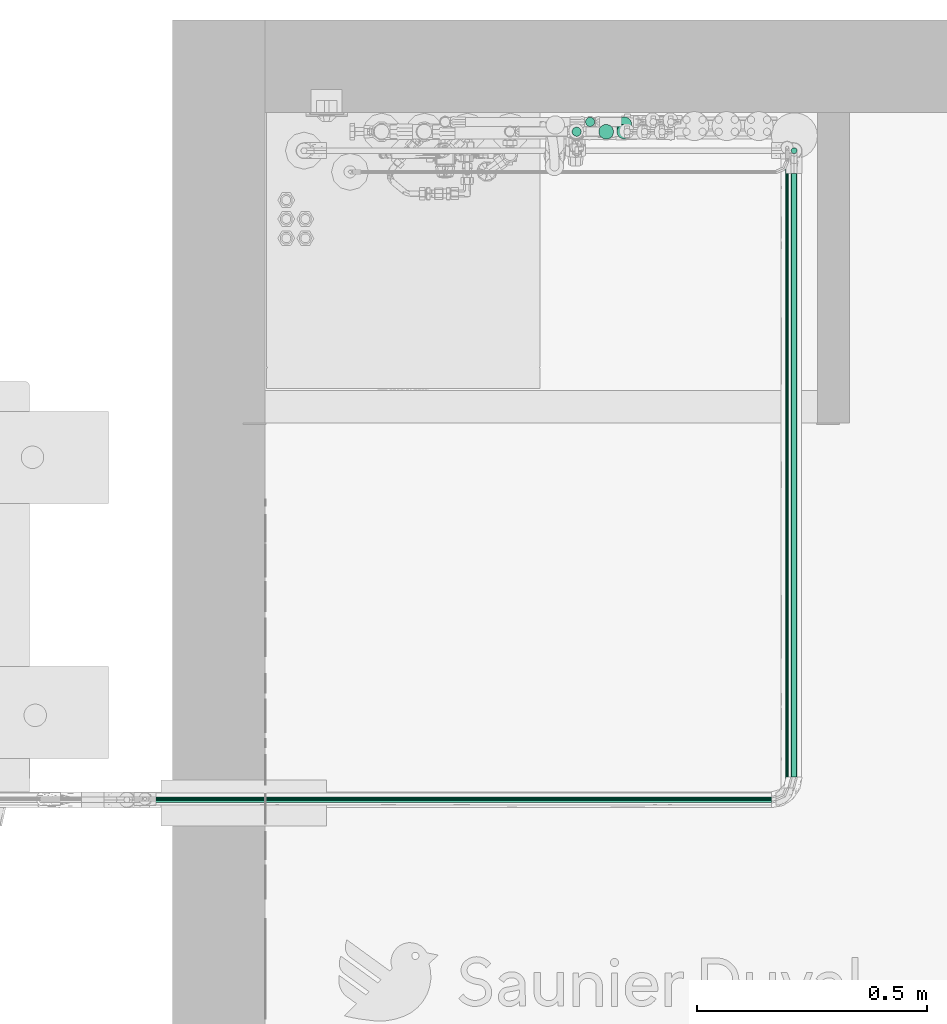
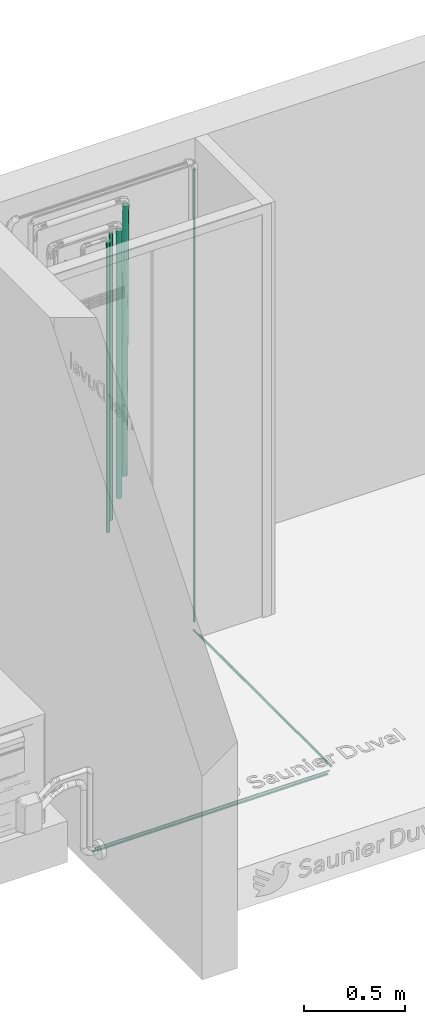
# One storey, part 16 of 32: 9 flow segments.
"""IFC2X3 building model written with IfcOpenShell, lengths in metres."""

from ifc_helpers import new_model, entity, si_unit, converted_unit, derived_unit, direction, frame, frame_2d, origin, origin_2d_with_axis, place, context, subcontext, project, spatial, circle, extrude, type_object, element, save


model = new_model("IFC2X3")

# Units and contexts
model_context = context("Model", 3, precision=1e-05, world=origin(), true_north=direction((6.123031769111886e-17, 1.0)))
body_context = subcontext(model_context, "Body", "Model", "MODEL_VIEW")
ifc_project = project(units=[si_unit("LENGTHUNIT", "METRE"), si_unit("AREAUNIT", "SQUARE_METRE"), si_unit("VOLUMEUNIT", "CUBIC_METRE"), converted_unit("PLANEANGLEUNIT", "DEGREE", entity("IfcPlaneAngleMeasure", 0.017453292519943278), si_unit("PLANEANGLEUNIT", "RADIAN"), dimensions=[0, 0, 0, 0, 0, 0, 0]), si_unit("MASSUNIT", "GRAM", prefix="KILO"), derived_unit("MASSDENSITYUNIT", [(si_unit("MASSUNIT", "GRAM", prefix="KILO"), 1), (si_unit("LENGTHUNIT", "METRE"), -3)]), derived_unit("IONCONCENTRATIONUNIT", [(si_unit("MASSUNIT", "GRAM", prefix="KILO"), 1), (si_unit("LENGTHUNIT", "METRE"), -3)]), derived_unit("MOMENTOFINERTIAUNIT", [(si_unit("LENGTHUNIT", "METRE"), 4)]), si_unit("TIMEUNIT", "SECOND"), si_unit("FREQUENCYUNIT", "HERTZ"), si_unit("THERMODYNAMICTEMPERATUREUNIT", "DEGREE_CELSIUS"), derived_unit("THERMALTRANSMITTANCEUNIT", [(si_unit("MASSUNIT", "GRAM", prefix="KILO"), 1), (si_unit("THERMODYNAMICTEMPERATUREUNIT", "KELVIN"), -1), (si_unit("TIMEUNIT", "SECOND"), -3)]), derived_unit("THERMALCONDUCTANCEUNIT", [(si_unit("MASSUNIT", "GRAM", prefix="KILO"), 1), (si_unit("THERMODYNAMICTEMPERATUREUNIT", "KELVIN"), -1), (si_unit("TIMEUNIT", "SECOND"), -3), (si_unit("LENGTHUNIT", "METRE"), 1)]), derived_unit("VOLUMETRICFLOWRATEUNIT", [(si_unit("LENGTHUNIT", "METRE", prefix="DECI"), 3), (si_unit("TIMEUNIT", "SECOND"), -1)]), derived_unit("MASSFLOWRATEUNIT", [(si_unit("MASSUNIT", "GRAM", prefix="KILO"), 1), (si_unit("TIMEUNIT", "SECOND"), -1)]), derived_unit("ROTATIONALFREQUENCYUNIT", [(si_unit("TIMEUNIT", "SECOND"), -1)]), si_unit("ELECTRICCURRENTUNIT", "AMPERE"), si_unit("ELECTRICVOLTAGEUNIT", "VOLT"), si_unit("POWERUNIT", "WATT"), si_unit("FORCEUNIT", "NEWTON", prefix="KILO"), si_unit("ILLUMINANCEUNIT", "LUX"), si_unit("LUMINOUSFLUXUNIT", "LUMEN"), si_unit("LUMINOUSINTENSITYUNIT", "CANDELA"), si_unit("ENERGYUNIT", "JOULE"), derived_unit("USERDEFINED", [(si_unit("MASSUNIT", "GRAM", prefix="KILO"), -1), (si_unit("LENGTHUNIT", "METRE"), -2), (si_unit("TIMEUNIT", "SECOND"), 3), (si_unit("LUMINOUSFLUXUNIT", "LUMEN"), 1)]), derived_unit("USERDEFINED", [(si_unit("MASSUNIT", "GRAM", prefix="KILO"), 1), (si_unit("TIMEUNIT", "SECOND"), -3), (si_unit("LENGTHUNIT", "METRE"), 3), (si_unit("ELECTRICCURRENTUNIT", "AMPERE"), -2)]), derived_unit("SOUNDPOWERUNIT", [(si_unit("MASSUNIT", "GRAM", prefix="KILO"), 1), (si_unit("TIMEUNIT", "SECOND"), -3), (si_unit("LENGTHUNIT", "METRE"), 2)]), derived_unit("SOUNDPRESSUREUNIT", [(si_unit("MASSUNIT", "GRAM", prefix="KILO"), 1), (si_unit("LENGTHUNIT", "METRE"), -1), (si_unit("TIMEUNIT", "SECOND"), -2)]), derived_unit("LINEARVELOCITYUNIT", [(si_unit("LENGTHUNIT", "METRE"), 1), (si_unit("TIMEUNIT", "SECOND"), -1)]), si_unit("PRESSUREUNIT", "PASCAL"), derived_unit("USERDEFINED", [(si_unit("MASSUNIT", "GRAM", prefix="KILO"), 1), (si_unit("LENGTHUNIT", "METRE"), -2), (si_unit("TIMEUNIT", "SECOND"), -2)]), derived_unit("LINEARFORCEUNIT", [(si_unit("MASSUNIT", "GRAM", prefix="KILO"), 1), (si_unit("TIMEUNIT", "SECOND"), -2)]), derived_unit("PLANARFORCEUNIT", [(si_unit("MASSUNIT", "GRAM", prefix="KILO"), 1), (si_unit("LENGTHUNIT", "METRE"), -1), (si_unit("TIMEUNIT", "SECOND"), -2)]), derived_unit("SPECIFICHEATCAPACITYUNIT", [(si_unit("THERMODYNAMICTEMPERATUREUNIT", "KELVIN"), -1), (si_unit("LENGTHUNIT", "METRE"), 2), (si_unit("TIMEUNIT", "SECOND"), -2)]), derived_unit("HEATFLUXDENSITYUNIT", [(si_unit("MASSUNIT", "GRAM", prefix="KILO"), 1), (si_unit("TIMEUNIT", "SECOND"), -3)]), derived_unit("HEATINGVALUEUNIT", [(si_unit("LENGTHUNIT", "METRE"), 2), (si_unit("TIMEUNIT", "SECOND"), -2)]), derived_unit("VAPORPERMEABILITYUNIT", [(si_unit("LENGTHUNIT", "METRE"), -1), (si_unit("TIMEUNIT", "SECOND"), 1)]), derived_unit("DYNAMICVISCOSITYUNIT", [(si_unit("MASSUNIT", "GRAM", prefix="KILO"), 1), (si_unit("TIMEUNIT", "SECOND"), -1), (si_unit("LENGTHUNIT", "METRE"), -1)]), derived_unit("THERMALEXPANSIONCOEFFICIENTUNIT", [(si_unit("THERMODYNAMICTEMPERATUREUNIT", "KELVIN"), -1)]), derived_unit("MODULUSOFELASTICITYUNIT", [(si_unit("MASSUNIT", "GRAM", prefix="KILO"), 1), (si_unit("LENGTHUNIT", "METRE"), -1), (si_unit("TIMEUNIT", "SECOND"), -2)]), derived_unit("ISOTHERMALMOISTURECAPACITYUNIT", [(si_unit("MASSUNIT", "GRAM", prefix="KILO"), -1), (si_unit("LENGTHUNIT", "METRE"), 3)]), derived_unit("MOISTUREDIFFUSIVITYUNIT", [(si_unit("TIMEUNIT", "SECOND"), -1), (si_unit("LENGTHUNIT", "METRE"), 2)]), derived_unit("MASSPERLENGTHUNIT", [(si_unit("MASSUNIT", "GRAM", prefix="KILO"), 1), (si_unit("LENGTHUNIT", "METRE"), -1)]), derived_unit("THERMALRESISTANCEUNIT", [(si_unit("MASSUNIT", "GRAM", prefix="KILO"), -1), (si_unit("TIMEUNIT", "SECOND"), 3), (si_unit("THERMODYNAMICTEMPERATUREUNIT", "KELVIN"), 1)]), derived_unit("ACCELERATIONUNIT", [(si_unit("LENGTHUNIT", "METRE"), 1), (si_unit("TIMEUNIT", "SECOND"), -2)]), derived_unit("ANGULARVELOCITYUNIT", [(si_unit("TIMEUNIT", "SECOND"), -1), (si_unit("PLANEANGLEUNIT", "RADIAN"), 1)]), derived_unit("LINEARSTIFFNESSUNIT", [(si_unit("MASSUNIT", "GRAM", prefix="KILO"), 1), (si_unit("TIMEUNIT", "SECOND"), -2)]), derived_unit("WARPINGCONSTANTUNIT", [(si_unit("LENGTHUNIT", "METRE"), 6)]), derived_unit("LINEARMOMENTUNIT", [(si_unit("MASSUNIT", "GRAM", prefix="KILO"), 1), (si_unit("LENGTHUNIT", "METRE"), 1), (si_unit("TIMEUNIT", "SECOND"), -2)]), derived_unit("TORQUEUNIT", [(si_unit("MASSUNIT", "GRAM", prefix="KILO"), 1), (si_unit("LENGTHUNIT", "METRE"), 2), (si_unit("TIMEUNIT", "SECOND"), -2)])], contexts=[model_context])

# Site, building, storey
site_placement = place(None, origin())
site = spatial("IfcSite", under=ifc_project, at=site_placement, Name="Default", CompositionType="ELEMENT")
building_placement = place(site_placement, origin())
building = spatial("IfcBuilding", under=site, at=building_placement, CompositionType="ELEMENT")
storey_placement = place(building_placement, origin())
storey = spatial("IfcBuildingStorey", under=building, at=storey_placement, Name="Niveau 0", CompositionType="ELEMENT", Elevation=-1.949160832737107e-14)

# Flow segments
pipe_segment_type_1 = type_object("IfcPipeSegmentType", Name="Canalisation:Cuivre Frigo", PredefinedType="NOTDEFINED")
flow_segment_1_placement = place(storey_placement, origin())
element("IfcFlowSegment", 1, at=flow_segment_1_placement, inside=storey, type_object=pipe_segment_type_1, Name="Canalisation:Cuivre Frigo", ObjectType="Canalisation:Cuivre Frigo", context=body_context, shape_type="SweptSolid", body=[
    extrude(circle(Radius=0.00635, at=origin_2d_with_axis()), frame((-13.560301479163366, 2.7855264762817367, -0.3656999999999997)), (0.0, 0.0, 1.0), 2.750837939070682),
])
flow_segment_2_placement = place(storey_placement, origin())
element("IfcFlowSegment", 2, at=flow_segment_2_placement, inside=storey, type_object=pipe_segment_type_1, Name="Canalisation:Cuivre Frigo", ObjectType="Canalisation:Cuivre Frigo", context=body_context, shape_type="SweptSolid", body=[
    extrude(circle(Radius=0.0032, at=origin_2d_with_axis()), frame((-13.575301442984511, 1.4011530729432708, -0.39999999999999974), z_axis=(0.0, 1.0, 0.0), x_axis=(-1.0, 0.0, 0.0)), (0.0, 0.0, 1.0), 1.3667734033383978),
])
flow_segment_3_placement = place(storey_placement, origin())
element("IfcFlowSegment", 3, at=flow_segment_3_placement, inside=storey, type_object=pipe_segment_type_1, Name="Canalisation:Cuivre Frigo", ObjectType="Canalisation:Cuivre Frigo", context=body_context, shape_type="SweptSolid", body=[
    extrude(circle(Radius=0.0032, at=frame_2d((-2.97788460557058e-15, 2.3010926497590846e-15), x_axis=(1.0, 0.0))), frame((-14.946820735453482, 1.3770530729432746, -0.3999999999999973), z_axis=(1.0, 0.0, 0.0), x_axis=(0.0, 1.0, 0.0)), (0.0, 0.0, 1.0), 1.3474192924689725),
])
flow_segment_4_placement = place(storey_placement, origin())
element("IfcFlowSegment", 4, at=flow_segment_4_placement, inside=storey, type_object=pipe_segment_type_1, Name="Canalisation:Cuivre Frigo", ObjectType="Canalisation:Cuivre Frigo", context=body_context, shape_type="SweptSolid", body=[
    extrude(circle(Radius=0.00635, at=frame_2d((2.1657342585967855e-15, -6.767919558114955e-17), x_axis=(1.0, 0.0))), frame((-13.560301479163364, 1.4243530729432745, -0.41499999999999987), z_axis=(0.0, 1.0, 0.0), x_axis=(-1.0, 0.0, 0.0)), (0.0, 0.0, 1.0), 1.3118734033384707),
])
flow_segment_5_placement = place(storey_placement, origin())
element("IfcFlowSegment", 5, at=flow_segment_5_placement, inside=storey, type_object=pipe_segment_type_1, Name="Canalisation:Cuivre Frigo", ObjectType="Canalisation:Cuivre Frigo", context=body_context, shape_type="SweptSolid", body=[
    extrude(circle(Radius=0.00635, at=origin_2d_with_axis()), frame((-14.961048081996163, 1.3750530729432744, -0.4149999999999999), z_axis=(1.0, 0.0, 0.0), x_axis=(0.0, -1.0, 0.0)), (0.0, 0.0, 1.0), 1.3514466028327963),
])
pipe_segment_type_2 = type_object("IfcPipeSegmentType", Name="Canalisation:COMAP MULTISKIN - SKINPRESS PPSU", PredefinedType="NOTDEFINED")
flow_segment_6_placement = place(storey_placement, origin())
element("IfcFlowSegment", 6, at=flow_segment_6_placement, inside=storey, type_object=pipe_segment_type_2, Name="Canalisation:COMAP MULTISKIN - SKINPRESS PPSU", ObjectType="Canalisation:COMAP MULTISKIN - SKINPRESS PPSU", context=body_context, shape_type="SweptSolid", body=[
    extrude(circle(Radius=0.01, at=origin_2d_with_axis()), frame((-14.032760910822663, 2.826796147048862, 0.3199999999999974)), (0.0, 0.0, 1.0), 1.7599999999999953),
])
flow_segment_7_placement = place(storey_placement, origin())
element("IfcFlowSegment", 7, at=flow_segment_7_placement, inside=storey, type_object=pipe_segment_type_2, Name="Canalisation:COMAP MULTISKIN - SKINPRESS PPSU", ObjectType="Canalisation:COMAP MULTISKIN - SKINPRESS PPSU", context=body_context, shape_type="SweptSolid", body=[
    extrude(circle(Radius=0.016, at=frame_2d((0.0, -2.5760886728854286e-21), x_axis=(1.0, 0.0))), frame((-13.968760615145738, 2.826663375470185, 0.5087543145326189)), (0.0, 0.0, 1.0), 1.6197892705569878),
])
flow_segment_8_placement = place(storey_placement, origin())
element("IfcFlowSegment", 8, at=flow_segment_8_placement, inside=storey, type_object=pipe_segment_type_2, Name="Canalisation:COMAP MULTISKIN - SKINPRESS PPSU", ObjectType="Canalisation:COMAP MULTISKIN - SKINPRESS PPSU", context=body_context, shape_type="SweptSolid", body=[
    extrude(circle(Radius=0.01, at=frame_2d((-2.1657342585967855e-15, 0.0), x_axis=(1.0, 0.0))), frame((-14.003550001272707, 2.8480800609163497, 0.3699999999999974)), (0.0, 0.0, 1.0), 1.7414101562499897),
])
flow_segment_9_placement = place(storey_placement, origin())
element("IfcFlowSegment", 9, at=flow_segment_9_placement, inside=storey, type_object=pipe_segment_type_2, Name="Canalisation:COMAP MULTISKIN - SKINPRESS PPSU", ObjectType="Canalisation:COMAP MULTISKIN - SKINPRESS PPSU", context=body_context, shape_type="SweptSolid", body=[
    extrude(circle(Radius=0.016, at=origin_2d_with_axis()), frame((-13.929260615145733, 2.8270908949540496, 2.267751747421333), z_axis=(0.0, 0.009589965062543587, -0.99995401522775), x_axis=(1.0, 0.0, 0.0)), (0.0, 0.0, 1.0), 1.6486934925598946),
])

save(model, "model.ifc")
